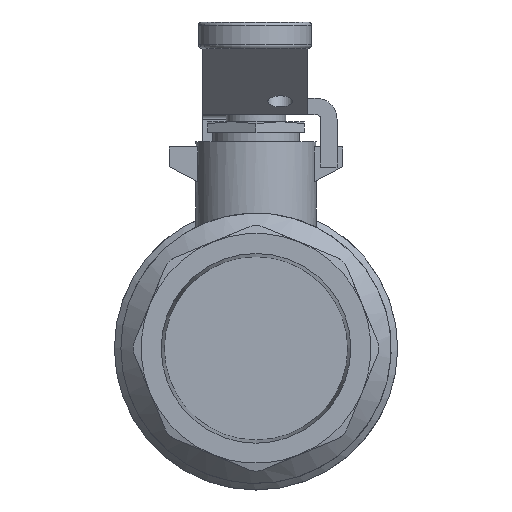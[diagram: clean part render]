
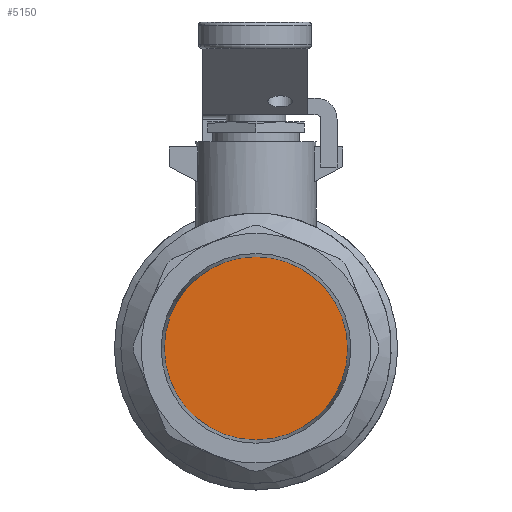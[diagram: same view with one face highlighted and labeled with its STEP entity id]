
A CAD part, left-side view. The second image highlights one B-rep face of the part: STEP entity #5150.
In plain terms, the highlighted free-form (B-spline) face has degree [1, 1] with [2, 2] control points.
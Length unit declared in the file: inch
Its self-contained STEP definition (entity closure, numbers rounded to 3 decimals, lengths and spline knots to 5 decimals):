
#5134=CARTESIAN_POINT('',(0.6609,0.59867,0.59866));
#5135=CARTESIAN_POINT('',(0.6609,-0.59866,0.59866));
#5136=CARTESIAN_POINT('',(0.6609,0.59867,-0.59866));
#5137=CARTESIAN_POINT('',(0.6609,-0.59866,-0.59866));
#5138=B_SPLINE_SURFACE_WITH_KNOTS('',1,1,((#5134,#5136),(#5135,#5137)),.UNSPECIFIED.,.F.,.F.,.U.,(2,2),(2,2),(0.0,1.19733),(0.0,1.19733),.UNSPECIFIED.);
#5139=CARTESIAN_POINT('',(0.6609,0.59867,0.0));
#5140=VERTEX_POINT('',#5139);
#5141=CARTESIAN_POINT('',(0.6609,0.0,0.0));
#5142=DIRECTION('',(1.0,0.0,0.0));
#5143=DIRECTION('',(0.0,1.0,0.0));
#5144=AXIS2_PLACEMENT_3D('',#5141,#5142,#5143);
#5145=CIRCLE('',#5144,0.59866);
#5146=EDGE_CURVE('',#5140,#5140,#5145,.T.);
#5147=ORIENTED_EDGE('',*,*,#5146,.F.);
#5148=EDGE_LOOP('',(#5147));
#5149=FACE_OUTER_BOUND('',#5148,.T.);
#5150=ADVANCED_FACE('',(#5149),#5138,.F.);
